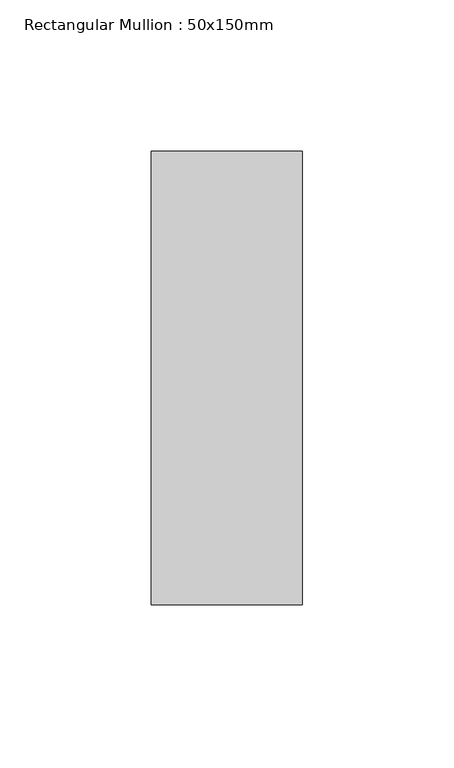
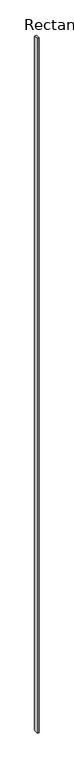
"""IFC4 building model written with IfcOpenShell, lengths in millimetres: member geometry, Rectangular Mullion : 50x150mm."""

from ifc_helpers import new_model, si_unit, frame, origin, place, context, project, spatial, polyline, outline, extrude, source, transform, mapped, element, save


def rectangular_mullion_50x150mm_9bf3cd82(model_context):
    return source(origin(), model_context, "Body", "SweptSolid", [
        extrude(outline(polyline([(-75.0, 9.2088421), (75.0, -9.2088421), (75.0, -22417.4691077), (-75.0, -22417.4691077), (-75.0, 9.2088421)])), frame((-25.0, 0.0, 0.0), z_axis=(1.0, 0.0, 0.0), x_axis=(0.0, 1.0, 0.0)), (0.0, 0.0, 1.0), 50.0),
    ])


if __name__ == "__main__":
    model = new_model("IFC4")
    model_context = context("Model", 3, world=origin())
    ifc_project = project(units=[si_unit("LENGTHUNIT", "METRE", prefix="MILLI")], contexts=[model_context])
    site = spatial("IfcSite", under=ifc_project)
    building = spatial("IfcBuilding", under=site)
    placement = place(None, origin())
    rectangular_mullion_50x150mm_shape = rectangular_mullion_50x150mm_9bf3cd82(model_context)
    element("IfcMember", 1, ObjectType="Rectangular Mullion : 50x150mm", at=placement, inside=building, context=model_context, shape_type="MappedRepresentation", body=[
        mapped(rectangular_mullion_50x150mm_shape, transform((0.0, 0.0, 0.0), x_axis=(1.0, 0.0, 0.0), y_axis=(0.0, 1.0, 0.0), z_axis=(0.0, 0.0, 1.0))),
    ])
    save(model, "model.ifc")
